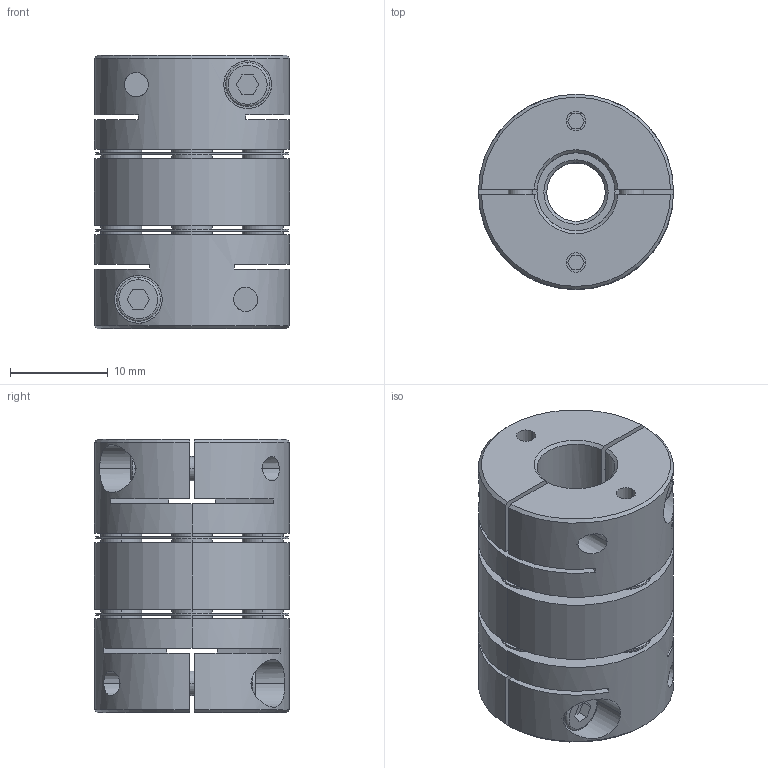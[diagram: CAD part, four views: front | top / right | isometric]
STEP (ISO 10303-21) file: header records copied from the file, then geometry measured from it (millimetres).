
FILE_DESCRIPTION((''),'2;1');
FILE_NAME('LA-20LS-6×8.stp','2015-10-05T09:58:06',(''),(''),'AutoCAD STEP 2000i','AutoCAD 2000i',', , ');
FILE_SCHEMA(('CONFIG_CONTROL_DESIGN'));
Length unit declared in the file: millimetre
Products named in the file (4): LA-20LS-4×8; 忣兜1; HUB-7-1; HUB-4-1
Assembly tree (3 placements, depth 2):
  LA-20LS-4×8
    忣兜1
    HUB-7-1
    HUB-4-1
Bounding box: 20 x 20 x 28 mm (x, y, z)
Volume: 6501.4 mm3; surface area: 6177.8 mm2
Topology: 1 solids, 1 shells, 276 faces, 715 edges, 491 vertices
Faces by surface type: cylinder 128, plane 120, torus 16, cone 12
Entity records: 9101 total; most frequent: CARTESIAN_POINT 1887, DIRECTION 1574, ORIENTED_EDGE 1400, EDGE_CURVE 700, AXIS2_PLACEMENT_3D 611, VERTEX_POINT 464, EDGE_LOOP 356, VECTOR 352
